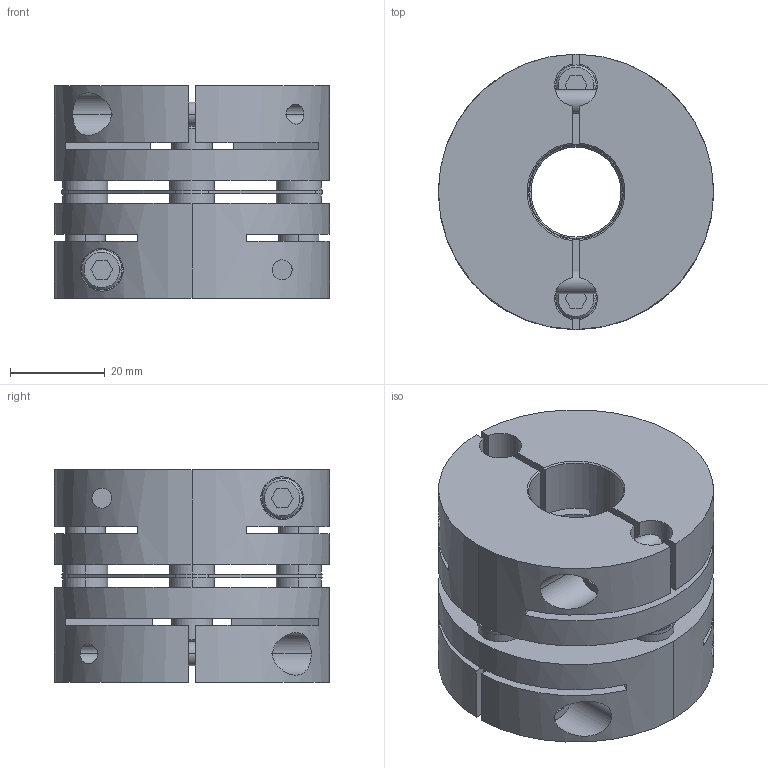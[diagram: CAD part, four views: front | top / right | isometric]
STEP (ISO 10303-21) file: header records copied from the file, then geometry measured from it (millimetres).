
FILE_DESCRIPTION((''),'2;1');
FILE_NAME('LAS-58C-19×20.stp','2011-08-09T15:35:04',(''),(''),'AutoCAD STEP 2000i','AutoCAD 2000i',', , ');
FILE_SCHEMA(('CONFIG_CONTROL_DESIGN'));
Length unit declared in the file: millimetre
Products named in the file (7): LAS-58C-19×19; 忣兜1; LA-5802-D19-1; LA-5802-D19; LA-5802-D12-1; LA-5802-D12; LAS58-ITA
Assembly tree (6 placements, depth 2):
  LAS-58C-19×19
    忣兜1
    LA-5802-D19-1
    LA-5802-D19
    LA-5802-D12-1
    LA-5802-D12
    LAS58-ITA
Bounding box: 58 x 58 x 44.8 mm (x, y, z)
Volume: 85453.4 mm3; surface area: 32722.3 mm2
Topology: 1 solids, 1 shells, 240 faces, 636 edges, 416 vertices
Faces by surface type: plane 116, cylinder 96, cone 28
Entity records: 8567 total; most frequent: CARTESIAN_POINT 2199, DIRECTION 1338, ORIENTED_EDGE 1280, EDGE_CURVE 640, AXIS2_PLACEMENT_3D 491, VERTEX_POINT 416, VECTOR 356, LINE 356
